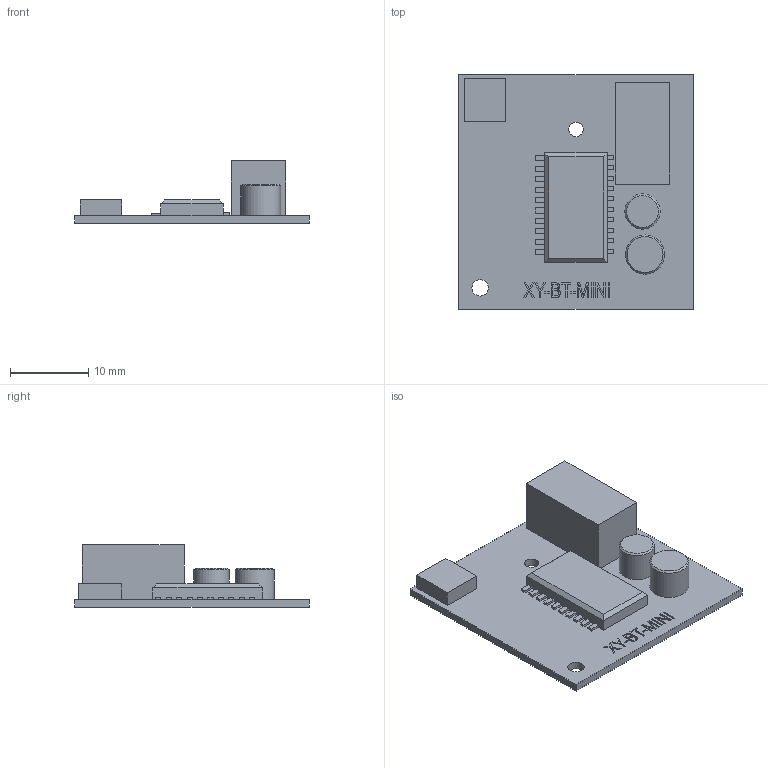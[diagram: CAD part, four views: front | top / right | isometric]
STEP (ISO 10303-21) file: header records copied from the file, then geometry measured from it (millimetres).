
FILE_DESCRIPTION(('FreeCAD Model'),'2;1');
FILE_NAME('Open CASCADE Shape Model','2024-05-27T06:49:34',( 'kicad StepUp'),('ksu MCAD'),'Open CASCADE STEP processor 7.6', 'FreeCAD','Unknown');
FILE_SCHEMA(('AUTOMOTIVE_DESIGN { 1 0 10303 214 1 1 1 1 }'));
Length unit declared in the file: millimetre
Products named in the file (1): Body
Bounding box: 30 x 30 x 8 mm (x, y, z)
Volume: 1930.9 mm3; surface area: 2506.3 mm2
Topology: 1 solids, 1 shells, 237 faces, 645 edges, 428 vertices
Faces by surface type: plane 202, extrusion 29, cylinder 4, cone 2
Full cylindrical faces by diameter (mm): 1.844 x1, 2.109 x1, 4.5 x1, 5 x1
Entity records: 7409 total; most frequent: CARTESIAN_POINT 1485, ORIENTED_EDGE 1290, DIRECTION 1044, EDGE_CURVE 645, VECTOR 606, LINE 577, VERTEX_POINT 428, FACE_BOUND 259
